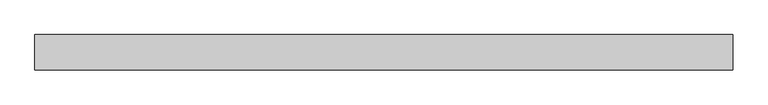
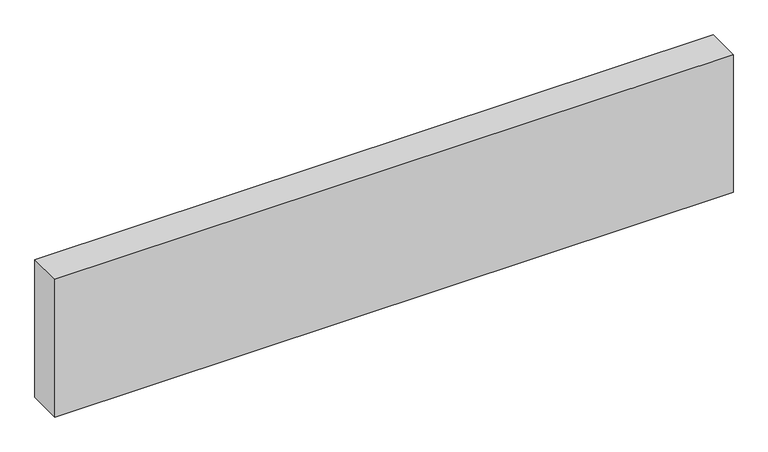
"""IFC4 building model written with IfcOpenShell, lengths in millimetres: plate geometry, Системная панель : Алюкобонд серый."""

from ifc_helpers import new_model, si_unit, origin, origin_with_axes, place, context, project, spatial, polyline, outline, extrude, source, transform, mapped, element, save


def plate_1049b0da(model_context):
    return source(origin(), model_context, "Body", "SweptSolid", [
        extrude(outline(polyline([(590.0, -49.5), (-590.0, -49.5), (-590.0, 10.5), (590.0, 10.5), (590.0, -49.5)])), origin_with_axes(), (0.0, 0.0, 1.0), 253.405918),
    ])


if __name__ == "__main__":
    model = new_model("IFC4")
    model_context = context("Model", 3, world=origin())
    ifc_project = project(units=[si_unit("LENGTHUNIT", "METRE", prefix="MILLI")], contexts=[model_context])
    site = spatial("IfcSite", under=ifc_project)
    building = spatial("IfcBuilding", under=site)
    placement = place(None, origin())
    plate_shape = plate_1049b0da(model_context)
    element("IfcPlate", 1, ObjectType="Системная панель : Алюкобонд серый", at=placement, inside=building, context=model_context, shape_type="MappedRepresentation", body=[
        mapped(plate_shape, transform((0.0, 0.0, 0.0), x_axis=(1.0, 0.0, 0.0), y_axis=(0.0, 1.0, 0.0), z_axis=(0.0, 0.0, 1.0))),
    ])
    save(model, "model.ifc")
